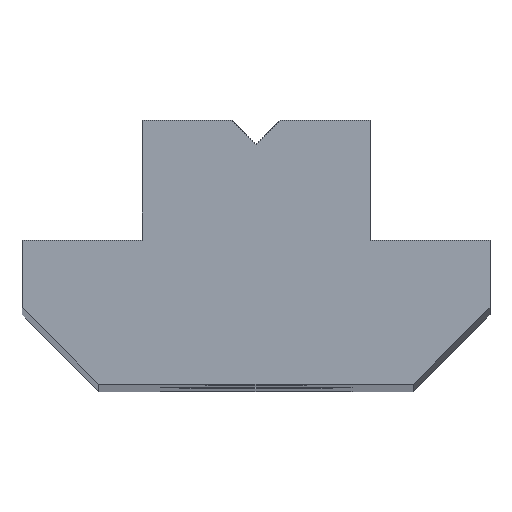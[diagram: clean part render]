
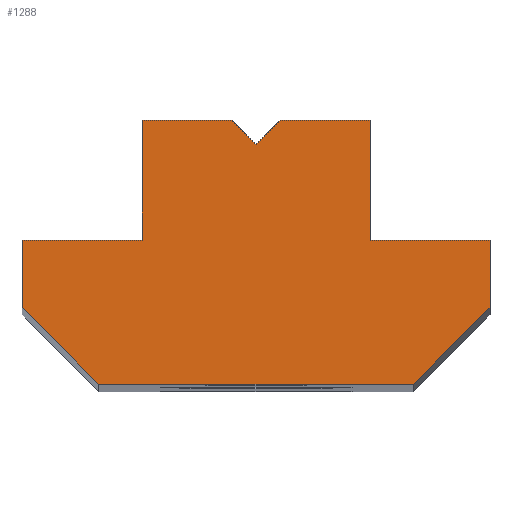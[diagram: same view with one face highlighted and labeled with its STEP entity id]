
A CAD part, top view. The second image highlights one B-rep face of the part: STEP entity #1288.
In plain terms, the highlighted planar face has unit normal (0, 0, 1).
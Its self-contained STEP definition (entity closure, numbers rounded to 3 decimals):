
#483=DIRECTION('',(0.707,-0.707,0.));
#484=VECTOR('',#483,1.414);
#485=CARTESIAN_POINT('',(-1.,5.,90.));
#486=LINE('',#485,#484);
#487=DIRECTION('',(0.707,0.707,0.));
#488=VECTOR('',#487,1.414);
#489=CARTESIAN_POINT('',(0.,4.,90.));
#490=LINE('',#489,#488);
#491=DIRECTION('',(1.,0.,0.));
#492=VECTOR('',#491,3.75);
#493=CARTESIAN_POINT('',(1.,5.,90.));
#494=LINE('',#493,#492);
#495=DIRECTION('',(0.,-1.,0.));
#496=VECTOR('',#495,5.);
#497=CARTESIAN_POINT('',(4.75,5.,90.));
#498=LINE('',#497,#496);
#499=DIRECTION('',(1.,0.,0.));
#500=VECTOR('',#499,5.);
#501=CARTESIAN_POINT('',(4.75,0.,90.));
#502=LINE('',#501,#500);
#503=DIRECTION('',(0.,-1.,0.));
#504=VECTOR('',#503,2.8);
#505=CARTESIAN_POINT('',(9.75,0.,90.));
#506=LINE('',#505,#504);
#507=DIRECTION('',(-0.707,-0.707,0.));
#508=VECTOR('',#507,4.525);
#509=CARTESIAN_POINT('',(9.75,-2.8,90.));
#510=LINE('',#509,#508);
#511=DIRECTION('',(-1.,0.,0.));
#512=VECTOR('',#511,13.1);
#513=CARTESIAN_POINT('',(6.55,-6.,90.));
#514=LINE('',#513,#512);
#515=DIRECTION('',(-0.707,0.707,0.));
#516=VECTOR('',#515,4.525);
#517=CARTESIAN_POINT('',(-6.55,-6.,90.));
#518=LINE('',#517,#516);
#519=DIRECTION('',(0.,1.,0.));
#520=VECTOR('',#519,2.8);
#521=CARTESIAN_POINT('',(-9.75,-2.8,90.));
#522=LINE('',#521,#520);
#523=DIRECTION('',(1.,0.,0.));
#524=VECTOR('',#523,5.);
#525=CARTESIAN_POINT('',(-9.75,0.,90.));
#526=LINE('',#525,#524);
#527=DIRECTION('',(0.,1.,0.));
#528=VECTOR('',#527,5.);
#529=CARTESIAN_POINT('',(-4.75,0.,90.));
#530=LINE('',#529,#528);
#531=DIRECTION('',(1.,0.,0.));
#532=VECTOR('',#531,3.75);
#533=CARTESIAN_POINT('',(-4.75,5.,90.));
#534=LINE('',#533,#532);
#651=CARTESIAN_POINT('',(-1.,5.,90.));
#652=CARTESIAN_POINT('',(0.,4.,90.));
#653=VERTEX_POINT('',#651);
#654=VERTEX_POINT('',#652);
#655=CARTESIAN_POINT('',(-4.75,5.,90.));
#656=VERTEX_POINT('',#655);
#657=CARTESIAN_POINT('',(-4.75,0.,90.));
#658=VERTEX_POINT('',#657);
#659=CARTESIAN_POINT('',(-9.75,0.,90.));
#660=VERTEX_POINT('',#659);
#661=CARTESIAN_POINT('',(-9.75,-2.8,90.));
#662=VERTEX_POINT('',#661);
#663=CARTESIAN_POINT('',(-6.55,-6.,90.));
#664=VERTEX_POINT('',#663);
#665=CARTESIAN_POINT('',(6.55,-6.,90.));
#666=VERTEX_POINT('',#665);
#667=CARTESIAN_POINT('',(9.75,-2.8,90.));
#668=VERTEX_POINT('',#667);
#669=CARTESIAN_POINT('',(9.75,0.,90.));
#670=VERTEX_POINT('',#669);
#671=CARTESIAN_POINT('',(4.75,0.,90.));
#672=VERTEX_POINT('',#671);
#673=CARTESIAN_POINT('',(4.75,5.,90.));
#674=VERTEX_POINT('',#673);
#675=CARTESIAN_POINT('',(1.,5.,90.));
#676=VERTEX_POINT('',#675);
#1264=CARTESIAN_POINT('',(0.,0.,90.));
#1265=DIRECTION('',(0.,0.,1.));
#1266=DIRECTION('',(1.,0.,0.));
#1267=AXIS2_PLACEMENT_3D('',#1264,#1265,#1266);
#1268=PLANE('',#1267);
#1269=ORIENTED_EDGE('',*,*,#776,.T.);
#1270=ORIENTED_EDGE('',*,*,#892,.T.);
#1271=ORIENTED_EDGE('',*,*,#1193,.T.);
#1272=ORIENTED_EDGE('',*,*,#1216,.T.);
#1273=ORIENTED_EDGE('',*,*,#1230,.T.);
#1274=ORIENTED_EDGE('',*,*,#1244,.T.);
#1275=ORIENTED_EDGE('',*,*,#1257,.T.);
#1276=ORIENTED_EDGE('',*,*,#1079,.T.);
#1278=ORIENTED_EDGE('',*,*,#1277,.T.);
#1280=ORIENTED_EDGE('',*,*,#1279,.T.);
#1282=ORIENTED_EDGE('',*,*,#1281,.T.);
#1284=ORIENTED_EDGE('',*,*,#1283,.T.);
#1285=ORIENTED_EDGE('',*,*,#1013,.T.);
#1286=EDGE_LOOP('',(#1269,#1270,#1271,#1272,#1273,#1274,#1275,#1276,#1278,#1280,
#1282,#1284,#1285));
#1287=FACE_OUTER_BOUND('',#1286,.F.);
#1288=ADVANCED_FACE('',(#1287),#1268,.T.);
#776=EDGE_CURVE('',#653,#654,#486,.T.);
#892=EDGE_CURVE('',#654,#676,#490,.T.);
#1013=EDGE_CURVE('',#656,#653,#534,.T.);
#1079=EDGE_CURVE('',#666,#664,#514,.T.);
#1193=EDGE_CURVE('',#676,#674,#494,.T.);
#1216=EDGE_CURVE('',#674,#672,#498,.T.);
#1230=EDGE_CURVE('',#672,#670,#502,.T.);
#1244=EDGE_CURVE('',#670,#668,#506,.T.);
#1257=EDGE_CURVE('',#668,#666,#510,.T.);
#1277=EDGE_CURVE('',#664,#662,#518,.T.);
#1279=EDGE_CURVE('',#662,#660,#522,.T.);
#1281=EDGE_CURVE('',#660,#658,#526,.T.);
#1283=EDGE_CURVE('',#658,#656,#530,.T.);
